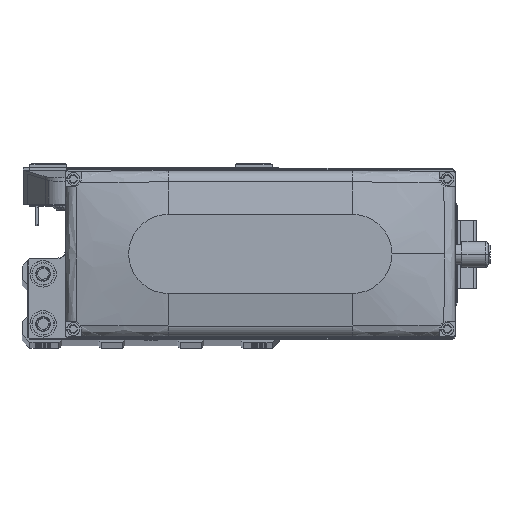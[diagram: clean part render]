
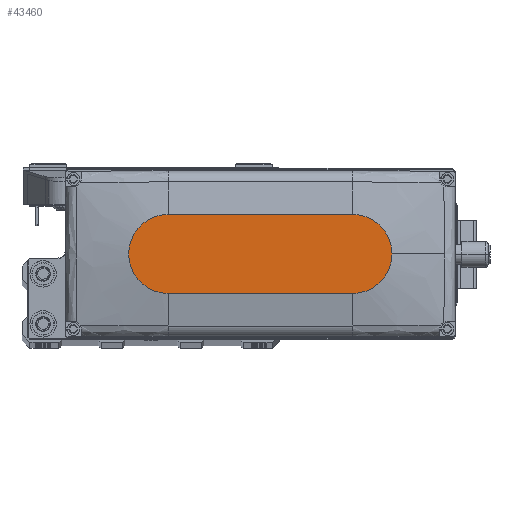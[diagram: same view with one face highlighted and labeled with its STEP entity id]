
A CAD part, top view. The second image highlights one B-rep face of the part: STEP entity #43460.
In plain terms, the highlighted planar face has unit normal (0, 0, 1).
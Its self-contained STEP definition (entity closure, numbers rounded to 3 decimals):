
#16 = DIRECTION ( 'NONE',  ( -1., 0., 0. ) ) ;
#801 = ORIENTED_EDGE ( 'NONE', *, *, #12211, .T. ) ;
#1286 = CIRCLE ( 'NONE', #29590, 15. ) ;
#2638 = CARTESIAN_POINT ( 'NONE',  ( 50., 0., 35. ) ) ;
#3767 = CARTESIAN_POINT ( 'NONE',  ( -35., -15., 35. ) ) ;
#4765 = CARTESIAN_POINT ( 'NONE',  ( 35., 0., 35. ) ) ;
#5804 = DIRECTION ( 'NONE',  ( 1., 0., 0. ) ) ;
#5990 = AXIS2_PLACEMENT_3D ( 'NONE', #4765, #20214, #35668 ) ;
#6105 = EDGE_CURVE ( 'NONE', #18974, #25947, #19264, .T. ) ;
#7175 = EDGE_CURVE ( 'NONE', #25947, #32045, #1286, .T. ) ;
#7373 = EDGE_LOOP ( 'NONE', ( #28333, #30658, #37411, #801, #12876 ) ) ;
#10955 = DIRECTION ( 'NONE',  ( 1., 0., 0. ) ) ;
#11492 = DIRECTION ( 'NONE',  ( 1., 0., 0. ) ) ;
#11678 = EDGE_CURVE ( 'NONE', #23537, #18974, #19091, .T. ) ;
#12211 = EDGE_CURVE ( 'NONE', #23161, #23537, #27835, .T. ) ;
#12876 = ORIENTED_EDGE ( 'NONE', *, *, #11678, .T. ) ;
#13623 = CARTESIAN_POINT ( 'NONE',  ( -35., 15., 35. ) ) ;
#14763 = PLANE ( 'NONE',  #48718 ) ;
#14948 = VECTOR ( 'NONE', #16, 1000. ) ;
#18147 = LINE ( 'NONE', #33609, #20638 ) ;
#18974 = VERTEX_POINT ( 'NONE', #19791 ) ;
#19091 = CIRCLE ( 'NONE', #47426, 15. ) ;
#19264 = LINE ( 'NONE', #34724, #14948 ) ;
#19791 = CARTESIAN_POINT ( 'NONE',  ( 35., 15., 35. ) ) ;
#20214 = DIRECTION ( 'NONE',  ( 0., 0., 1. ) ) ;
#20638 = VECTOR ( 'NONE', #49061, 1000. ) ;
#23161 = VERTEX_POINT ( 'NONE', #28611 ) ;
#23537 = VERTEX_POINT ( 'NONE', #2638 ) ;
#24838 = EDGE_CURVE ( 'NONE', #32045, #23161, #18147, .T. ) ;
#25036 = CARTESIAN_POINT ( 'NONE',  ( -35., 0., 35. ) ) ;
#25947 = VERTEX_POINT ( 'NONE', #13623 ) ;
#27835 = CIRCLE ( 'NONE', #5990, 15. ) ;
#28333 = ORIENTED_EDGE ( 'NONE', *, *, #6105, .T. ) ;
#28611 = CARTESIAN_POINT ( 'NONE',  ( 35., -15., 35. ) ) ;
#29590 = AXIS2_PLACEMENT_3D ( 'NONE', #25036, #40495, #5804 ) ;
#30202 = CARTESIAN_POINT ( 'NONE',  ( 0., 0., 35. ) ) ;
#30658 = ORIENTED_EDGE ( 'NONE', *, *, #7175, .T. ) ;
#30743 = CARTESIAN_POINT ( 'NONE',  ( 35., 0., 35. ) ) ;
#32045 = VERTEX_POINT ( 'NONE', #3767 ) ;
#33609 = CARTESIAN_POINT ( 'NONE',  ( -35., -15., 35. ) ) ;
#34724 = CARTESIAN_POINT ( 'NONE',  ( -35., 15., 35. ) ) ;
#35668 = DIRECTION ( 'NONE',  ( 1., 0., 0. ) ) ;
#37411 = ORIENTED_EDGE ( 'NONE', *, *, #24838, .T. ) ;
#40495 = DIRECTION ( 'NONE',  ( 0., 0., 1. ) ) ;
#43460 = ADVANCED_FACE ( 'NONE', ( #49451 ), #14763, .T. ) ;
#45659 = DIRECTION ( 'NONE',  ( 0., 0., 1. ) ) ;
#46197 = DIRECTION ( 'NONE',  ( 0., 0., 1. ) ) ;
#47426 = AXIS2_PLACEMENT_3D ( 'NONE', #30743, #46197, #11492 ) ;
#48718 = AXIS2_PLACEMENT_3D ( 'NONE', #30202, #45659, #10955 ) ;
#49061 = DIRECTION ( 'NONE',  ( 1., 0., 0. ) ) ;
#49451 = FACE_OUTER_BOUND ( 'NONE', #7373, .T. ) ;
